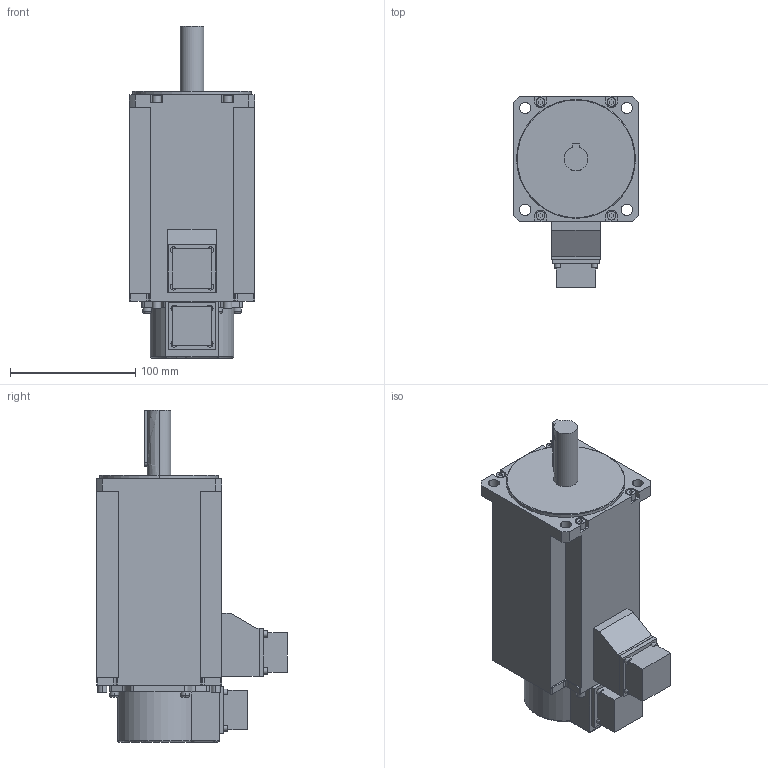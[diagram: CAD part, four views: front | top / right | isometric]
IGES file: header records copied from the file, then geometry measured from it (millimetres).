
Start section:  PTC IGES file: rsms_20ask3-070830.igs
Global section: file name: rsms_20ask3-070830.igs; native system: Pro/ENGINEER by Parametric Technology Corporation; preprocessor: 2004440; author: Administrator; organization: Unknown; date: 070830.160840; units: millimetre
Bounding box: 100 x 152.7 x 265.5 mm (x, y, z)
Volume: 1801882.7 mm3; surface area: 115714.5 mm2
Topology: 1 solids, 1 shells, 270 faces, 708 edges, 464 vertices
Faces by surface type: bspline 171, revolution 99
